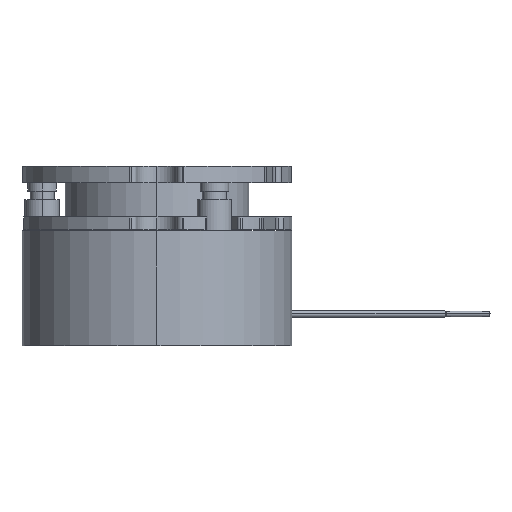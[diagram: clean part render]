
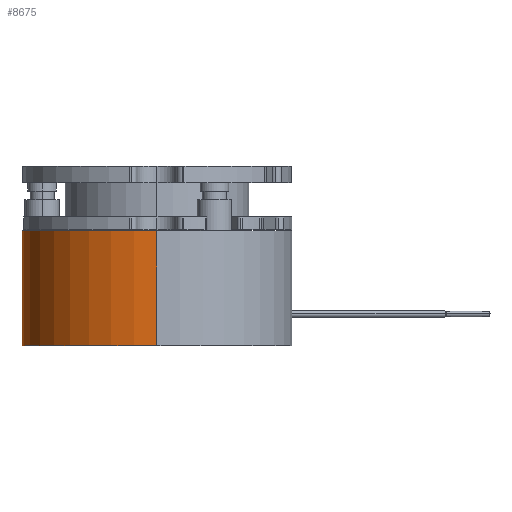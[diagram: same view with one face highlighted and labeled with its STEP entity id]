
A CAD part, left-side view. The second image highlights one B-rep face of the part: STEP entity #8675.
In plain terms, the highlighted cylindrical face has radius 23.5 mm (diameter 47 mm), a partial arc.
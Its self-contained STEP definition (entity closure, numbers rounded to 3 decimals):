
#104 = EDGE_CURVE ( 'NONE', #11457, #11463, #849, .T. ) ;
#105 = EDGE_CURVE ( 'NONE', #11462, #11463, #851, .T. ) ;
#106 = EDGE_CURVE ( 'NONE', #11456, #11462, #850, .T. ) ;
#107 = EDGE_CURVE ( 'NONE', #11456, #11457, #854, .T. ) ;
#849 = LINE ( 'NONE', #11965, #852 ) ;
#850 = LINE ( 'NONE', #11971, #855 ) ;
#851 = CIRCLE ( 'NONE', #1157, 23.5 ) ;
#852 = VECTOR ( 'NONE', #11926, 1000. ) ;
#854 = CIRCLE ( 'NONE', #1158, 23.5 ) ;
#855 = VECTOR ( 'NONE', #11920, 1000. ) ;
#1157 = AXIS2_PLACEMENT_3D ( 'NONE', #11972, #11973, #11974 ) ;
#1158 = AXIS2_PLACEMENT_3D ( 'NONE', #11976, #11977, #11978 ) ;
#4799 = EDGE_LOOP ( 'NONE', ( #11326, #11327, #11322, #11323 ) ) ;
#5724 = AXIS2_PLACEMENT_3D ( 'NONE', #6386, #6375, #6394 ) ;
#6375 = DIRECTION ( 'NONE',  ( 0., 0., -1. ) ) ;
#6386 = CARTESIAN_POINT ( 'NONE',  ( 0., 0., 20. ) ) ;
#6394 = DIRECTION ( 'NONE',  ( -1., 0., 0. ) ) ;
#6630 = FACE_OUTER_BOUND ( 'NONE', #4799, .T. ) ;
#6638 = CYLINDRICAL_SURFACE ( 'NONE', #5724, 23.5 ) ;
#8675 = ADVANCED_FACE ( 'NONE', ( #6630 ), #6638, .T. ) ;
#10781 = CARTESIAN_POINT ( 'NONE',  ( 23.5, 0., 20. ) ) ;
#10782 = CARTESIAN_POINT ( 'NONE',  ( -23.5, 0., 20. ) ) ;
#10787 = CARTESIAN_POINT ( 'NONE',  ( 23.5, 0., 0. ) ) ;
#10788 = CARTESIAN_POINT ( 'NONE',  ( -23.5, 0., 0. ) ) ;
#11322 = ORIENTED_EDGE ( 'NONE', *, *, #105, .T. ) ;
#11323 = ORIENTED_EDGE ( 'NONE', *, *, #104, .F. ) ;
#11326 = ORIENTED_EDGE ( 'NONE', *, *, #107, .F. ) ;
#11327 = ORIENTED_EDGE ( 'NONE', *, *, #106, .T. ) ;
#11456 = VERTEX_POINT ( 'NONE', #10781 ) ;
#11457 = VERTEX_POINT ( 'NONE', #10782 ) ;
#11462 = VERTEX_POINT ( 'NONE', #10787 ) ;
#11463 = VERTEX_POINT ( 'NONE', #10788 ) ;
#11920 = DIRECTION ( 'NONE',  ( 0., 0., -1. ) ) ;
#11926 = DIRECTION ( 'NONE',  ( 0., 0., -1. ) ) ;
#11965 = CARTESIAN_POINT ( 'NONE',  ( -23.5, 0., 20. ) ) ;
#11971 = CARTESIAN_POINT ( 'NONE',  ( 23.5, 0., 20. ) ) ;
#11972 = CARTESIAN_POINT ( 'NONE',  ( 0., 0., 0. ) ) ;
#11973 = DIRECTION ( 'NONE',  ( 0., 0., 1. ) ) ;
#11974 = DIRECTION ( 'NONE',  ( 1., 0., 0. ) ) ;
#11976 = CARTESIAN_POINT ( 'NONE',  ( 0., 0., 20. ) ) ;
#11977 = DIRECTION ( 'NONE',  ( 0., 0., 1. ) ) ;
#11978 = DIRECTION ( 'NONE',  ( 1., 0., 0. ) ) ;
